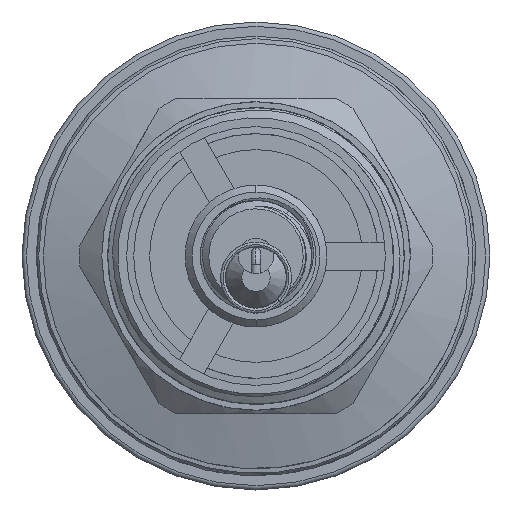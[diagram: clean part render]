
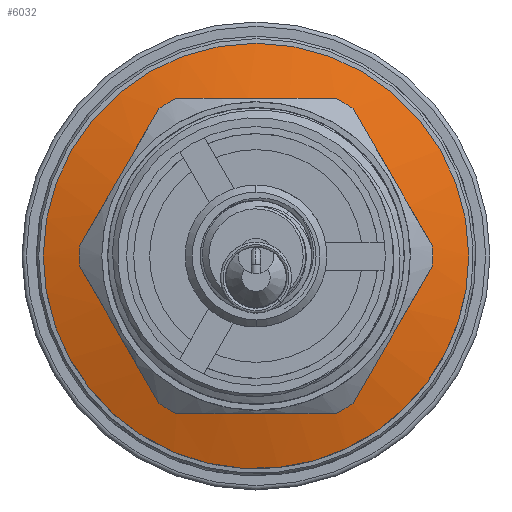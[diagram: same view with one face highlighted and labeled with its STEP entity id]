
A CAD part, front view. The second image highlights one B-rep face of the part: STEP entity #6032.
In plain terms, the highlighted conical face has half-angle 73.301 degrees and reference radius 22.381 mm.
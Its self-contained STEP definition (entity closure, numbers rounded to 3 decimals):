
#66=(
BOUNDED_CURVE()
B_SPLINE_CURVE(2,(#38435,#38436,#38437),.UNSPECIFIED.,.F.,.F.)
B_SPLINE_CURVE_WITH_KNOTS((3,3),(1.175,3.834),
 .UNSPECIFIED.)
CURVE()
GEOMETRIC_REPRESENTATION_ITEM()
RATIONAL_B_SPLINE_CURVE((1.179,1.319,1.179))
REPRESENTATION_ITEM('')
);
#67=(
BOUNDED_CURVE()
B_SPLINE_CURVE(2,(#38441,#38442,#38443),.UNSPECIFIED.,.F.,.F.)
B_SPLINE_CURVE_WITH_KNOTS((3,3),(1.175,3.834),
 .UNSPECIFIED.)
CURVE()
GEOMETRIC_REPRESENTATION_ITEM()
RATIONAL_B_SPLINE_CURVE((1.179,1.319,1.179))
REPRESENTATION_ITEM('')
);
#68=(
BOUNDED_CURVE()
B_SPLINE_CURVE(2,(#38447,#38448,#38449),.UNSPECIFIED.,.F.,.F.)
B_SPLINE_CURVE_WITH_KNOTS((3,3),(1.175,3.834),
 .UNSPECIFIED.)
CURVE()
GEOMETRIC_REPRESENTATION_ITEM()
RATIONAL_B_SPLINE_CURVE((1.179,1.319,1.179))
REPRESENTATION_ITEM('')
);
#69=(
BOUNDED_CURVE()
B_SPLINE_CURVE(2,(#38453,#38454,#38455),.UNSPECIFIED.,.F.,.F.)
B_SPLINE_CURVE_WITH_KNOTS((3,3),(1.175,2.798),
 .UNSPECIFIED.)
CURVE()
GEOMETRIC_REPRESENTATION_ITEM()
RATIONAL_B_SPLINE_CURVE((1.179,1.265,1.246))
REPRESENTATION_ITEM('')
);
#70=(
BOUNDED_CURVE()
B_SPLINE_CURVE(2,(#38458,#38459,#38460),.UNSPECIFIED.,.F.,.F.)
B_SPLINE_CURVE_WITH_KNOTS((3,3),(2.798,3.834),
 .UNSPECIFIED.)
CURVE()
GEOMETRIC_REPRESENTATION_ITEM()
RATIONAL_B_SPLINE_CURVE((1.246,1.234,1.179))
REPRESENTATION_ITEM('')
);
#71=(
BOUNDED_CURVE()
B_SPLINE_CURVE(2,(#38464,#38465,#38466),.UNSPECIFIED.,.F.,.F.)
B_SPLINE_CURVE_WITH_KNOTS((3,3),(1.175,3.834),
 .UNSPECIFIED.)
CURVE()
GEOMETRIC_REPRESENTATION_ITEM()
RATIONAL_B_SPLINE_CURVE((1.179,1.319,1.179))
REPRESENTATION_ITEM('')
);
#72=(
BOUNDED_CURVE()
B_SPLINE_CURVE(2,(#38469,#38470,#38471),.UNSPECIFIED.,.F.,.F.)
B_SPLINE_CURVE_WITH_KNOTS((3,3),(1.175,3.834),
 .UNSPECIFIED.)
CURVE()
GEOMETRIC_REPRESENTATION_ITEM()
RATIONAL_B_SPLINE_CURVE((1.179,1.319,1.179))
REPRESENTATION_ITEM('')
);
#300=CONICAL_SURFACE('',#6392,22.381,1.279);
#353=FACE_OUTER_BOUND('',#670,.T.);
#670=EDGE_LOOP('',(#4094,#4095,#4096,#4097,#4098,#4099,#4100,#4101,#4102,
#4103,#4104,#4105,#4106,#4107,#4108,#4109,#4110,#4111));
#1009=CIRCLE('',#6382,30.);
#1010=CIRCLE('',#6383,30.);
#1011=CIRCLE('',#6384,30.);
#1015=CIRCLE('',#6393,24.9);
#1016=CIRCLE('',#6394,24.9);
#1017=CIRCLE('',#6395,24.9);
#1018=CIRCLE('',#6396,24.9);
#1019=CIRCLE('',#6397,24.9);
#1020=CIRCLE('',#6398,24.9);
#1666=LINE('',#38456,#1943);
#1943=VECTOR('',#7025,22.381);
#2277=VERTEX_POINT('',#19826);
#2278=VERTEX_POINT('',#19828);
#2279=VERTEX_POINT('',#19830);
#2283=VERTEX_POINT('',#38431);
#2284=VERTEX_POINT('',#38432);
#2285=VERTEX_POINT('',#38434);
#2286=VERTEX_POINT('',#38438);
#2287=VERTEX_POINT('',#38440);
#2288=VERTEX_POINT('',#38444);
#2289=VERTEX_POINT('',#38446);
#2290=VERTEX_POINT('',#38450);
#2291=VERTEX_POINT('',#38452);
#2292=VERTEX_POINT('',#38457);
#2293=VERTEX_POINT('',#38461);
#2294=VERTEX_POINT('',#38463);
#2295=VERTEX_POINT('',#38467);
#3002=EDGE_CURVE('',#2277,#2278,#1009,.T.);
#3003=EDGE_CURVE('',#2278,#2279,#1010,.T.);
#3004=EDGE_CURVE('',#2279,#2277,#1011,.T.);
#3016=EDGE_CURVE('',#2283,#2284,#1015,.T.);
#3017=EDGE_CURVE('',#2284,#2285,#66,.T.);
#3018=EDGE_CURVE('',#2285,#2286,#1016,.T.);
#3019=EDGE_CURVE('',#2286,#2287,#67,.T.);
#3020=EDGE_CURVE('',#2287,#2288,#1017,.T.);
#3021=EDGE_CURVE('',#2288,#2289,#68,.T.);
#3022=EDGE_CURVE('',#2289,#2290,#1018,.T.);
#3023=EDGE_CURVE('',#2290,#2291,#69,.T.);
#3024=EDGE_CURVE('',#2291,#2279,#1666,.T.);
#3025=EDGE_CURVE('',#2291,#2292,#70,.T.);
#3026=EDGE_CURVE('',#2292,#2293,#1019,.T.);
#3027=EDGE_CURVE('',#2293,#2294,#71,.T.);
#3028=EDGE_CURVE('',#2294,#2295,#1020,.T.);
#3029=EDGE_CURVE('',#2295,#2283,#72,.T.);
#4094=ORIENTED_EDGE('',*,*,#3016,.T.);
#4095=ORIENTED_EDGE('',*,*,#3017,.T.);
#4096=ORIENTED_EDGE('',*,*,#3018,.T.);
#4097=ORIENTED_EDGE('',*,*,#3019,.T.);
#4098=ORIENTED_EDGE('',*,*,#3020,.T.);
#4099=ORIENTED_EDGE('',*,*,#3021,.T.);
#4100=ORIENTED_EDGE('',*,*,#3022,.T.);
#4101=ORIENTED_EDGE('',*,*,#3023,.T.);
#4102=ORIENTED_EDGE('',*,*,#3024,.T.);
#4103=ORIENTED_EDGE('',*,*,#3003,.F.);
#4104=ORIENTED_EDGE('',*,*,#3002,.F.);
#4105=ORIENTED_EDGE('',*,*,#3004,.F.);
#4106=ORIENTED_EDGE('',*,*,#3024,.F.);
#4107=ORIENTED_EDGE('',*,*,#3025,.T.);
#4108=ORIENTED_EDGE('',*,*,#3026,.T.);
#4109=ORIENTED_EDGE('',*,*,#3027,.T.);
#4110=ORIENTED_EDGE('',*,*,#3028,.T.);
#4111=ORIENTED_EDGE('',*,*,#3029,.T.);
#6032=ADVANCED_FACE('',(#353),#300,.T.);
#6382=AXIS2_PLACEMENT_3D('',#19829,#6990,#6991);
#6383=AXIS2_PLACEMENT_3D('',#19831,#6992,#6993);
#6384=AXIS2_PLACEMENT_3D('',#19832,#6994,#6995);
#6392=AXIS2_PLACEMENT_3D('',#38430,#7015,#7016);
#6393=AXIS2_PLACEMENT_3D('',#38433,#7017,#7018);
#6394=AXIS2_PLACEMENT_3D('',#38439,#7019,#7020);
#6395=AXIS2_PLACEMENT_3D('',#38445,#7021,#7022);
#6396=AXIS2_PLACEMENT_3D('',#38451,#7023,#7024);
#6397=AXIS2_PLACEMENT_3D('',#38462,#7026,#7027);
#6398=AXIS2_PLACEMENT_3D('',#38468,#7028,#7029);
#6990=DIRECTION('center_axis',(0.,1.,0.));
#6991=DIRECTION('ref_axis',(-1.,0.,0.));
#6992=DIRECTION('center_axis',(0.,1.,0.));
#6993=DIRECTION('ref_axis',(-1.,0.,0.));
#6994=DIRECTION('center_axis',(0.,1.,0.));
#6995=DIRECTION('ref_axis',(-1.,0.,0.));
#7015=DIRECTION('center_axis',(0.,1.,0.));
#7016=DIRECTION('ref_axis',(-0.809,0.,0.588));
#7017=DIRECTION('center_axis',(0.,1.,0.));
#7018=DIRECTION('ref_axis',(-0.998,0.,-0.058));
#7019=DIRECTION('center_axis',(0.,1.,0.));
#7020=DIRECTION('ref_axis',(-0.549,0.,0.836));
#7021=DIRECTION('center_axis',(0.,1.,0.));
#7022=DIRECTION('ref_axis',(0.449,0.,0.894));
#7023=DIRECTION('center_axis',(0.,1.,0.));
#7024=DIRECTION('ref_axis',(1.,0.,0.));
#7025=DIRECTION('',(0.775,0.287,-0.563));
#7026=DIRECTION('center_axis',(0.,1.,0.));
#7027=DIRECTION('ref_axis',(0.549,0.,-0.836));
#7028=DIRECTION('center_axis',(0.,1.,0.));
#7029=DIRECTION('ref_axis',(-0.449,0.,-0.894));
#19826=CARTESIAN_POINT('',(-30.,-9.5,0.));
#19828=CARTESIAN_POINT('',(30.,-9.5,0.));
#19829=CARTESIAN_POINT('Origin',(0.,-9.5,
0.));
#19830=CARTESIAN_POINT('',(24.271,-9.5,-17.634));
#19831=CARTESIAN_POINT('Origin',(0.,-9.5,
0.));
#19832=CARTESIAN_POINT('Origin',(0.,-9.5,
0.));
#38430=CARTESIAN_POINT('Origin',(0.,-11.786,
0.));
#38431=CARTESIAN_POINT('',(-24.858,-11.03,-1.445));
#38432=CARTESIAN_POINT('',(-24.858,-11.03,1.445));
#38433=CARTESIAN_POINT('Origin',(0.,-11.03,
0.));
#38434=CARTESIAN_POINT('',(-13.68,-11.03,20.805));
#38435=CARTESIAN_POINT('Ctrl Pts',(-24.858,-11.03,
1.445));
#38436=CARTESIAN_POINT('Ctrl Pts',(-19.269,-12.535,11.125));
#38437=CARTESIAN_POINT('Ctrl Pts',(-13.68,-11.03,
20.805));
#38438=CARTESIAN_POINT('',(-11.178,-11.03,22.25));
#38439=CARTESIAN_POINT('Origin',(0.,-11.03,0.));
#38440=CARTESIAN_POINT('',(11.178,-11.03,22.25));
#38441=CARTESIAN_POINT('Ctrl Pts',(-11.178,-11.03,
22.25));
#38442=CARTESIAN_POINT('Ctrl Pts',(0.,-12.535,
22.25));
#38443=CARTESIAN_POINT('Ctrl Pts',(11.178,-11.03,22.25));
#38444=CARTESIAN_POINT('',(13.68,-11.03,20.805));
#38445=CARTESIAN_POINT('Origin',(0.,-11.03,0.));
#38446=CARTESIAN_POINT('',(24.858,-11.03,1.445));
#38447=CARTESIAN_POINT('Ctrl Pts',(13.68,-11.03,20.805));
#38448=CARTESIAN_POINT('Ctrl Pts',(19.269,-12.535,11.125));
#38449=CARTESIAN_POINT('Ctrl Pts',(24.858,-11.03,1.445));
#38450=CARTESIAN_POINT('',(24.858,-11.03,-1.445));
#38451=CARTESIAN_POINT('Origin',(0.,-11.03,
0.));
#38452=CARTESIAN_POINT('',(18.1,-11.788,-13.15));
#38453=CARTESIAN_POINT('Ctrl Pts',(24.858,-11.03,-1.445));
#38454=CARTESIAN_POINT('Ctrl Pts',(21.298,-11.989,-7.61));
#38455=CARTESIAN_POINT('Ctrl Pts',(18.1,-11.788,-13.15));
#38456=CARTESIAN_POINT('',(18.106,-11.786,-13.155));
#38457=CARTESIAN_POINT('',(13.68,-11.03,-20.805));
#38458=CARTESIAN_POINT('Ctrl Pts',(18.1,-11.788,-13.15));
#38459=CARTESIAN_POINT('Ctrl Pts',(16.008,-11.657,-16.773));
#38460=CARTESIAN_POINT('Ctrl Pts',(13.68,-11.03,-20.805));
#38461=CARTESIAN_POINT('',(11.178,-11.03,-22.25));
#38462=CARTESIAN_POINT('Origin',(0.,-11.03,0.));
#38463=CARTESIAN_POINT('',(-11.178,-11.03,-22.25));
#38464=CARTESIAN_POINT('Ctrl Pts',(11.178,-11.03,-22.25));
#38465=CARTESIAN_POINT('Ctrl Pts',(0.,-12.535,
-22.25));
#38466=CARTESIAN_POINT('Ctrl Pts',(-11.178,-11.03,
-22.25));
#38467=CARTESIAN_POINT('',(-13.68,-11.03,-20.805));
#38468=CARTESIAN_POINT('Origin',(0.,-11.03,0.));
#38469=CARTESIAN_POINT('Ctrl Pts',(-13.68,-11.03,
-20.805));
#38470=CARTESIAN_POINT('Ctrl Pts',(-19.269,-12.535,
-11.125));
#38471=CARTESIAN_POINT('Ctrl Pts',(-24.858,-11.03,
-1.445));
